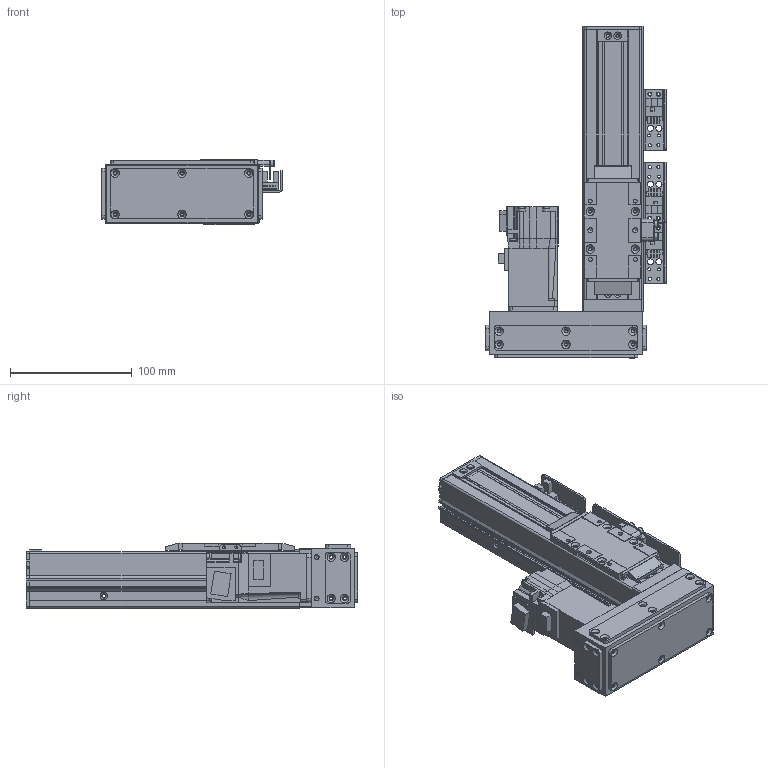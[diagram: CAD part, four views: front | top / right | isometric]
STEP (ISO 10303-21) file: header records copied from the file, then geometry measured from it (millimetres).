
FILE_DESCRIPTION(/* description */ (''),/* implementation_level */ '2;1');
FILE_NAME(/* name */ '\\192.168.0.160\disk1\HAN SHIN Master\B-설계부문\C-표준\B-2024년\BC02-표준도면\+로봇 개선표준도면\홈페이지 표준 도면\표준 승인도 폴더 - 재작업\3D\HC Type\HC50 - 재작업\L-Type\HC50-L10-N-0100-R10.stp',/* time_stamp */ '2024-11-29T11:11:11+09:00',/* author */ ('user'),/* organization */ (''),/* preprocessor_version */ 'ST-DEVELOPER v18.1',/* originating_system */ 'Autodesk Inventor 2022',/* authorisation */ '');
FILE_SCHEMA (('AUTOMOTIVE_DESIGN { 1 0 10303 214 3 1 1 }'));
Length unit declared in the file: millimetre
Products named in the file (27): HC50-L10-N-0200-R10; HC50 BASE-R1; HC50 REAR BLOCK; HR45 FRONT BLOCK; 45- BEARING COVER; SENSOR DOG BRK; HC50 SENSOR DOG; ISO 4762 - M3 x 16; HC45 UPCOVER; HC75,90 SHEET PLATE; HC45, HC65 STOPPER; MAGNET(∅10X3); HC50 REAR COVER-R3; SENSOR BRK(EE-SX674A); EE_SX674A; ESF1210 NUT; HC45 TABLE; HC75 TABLE COVER; HC45 TABLE SIDE COVER; hg-kr13_; HR45 ACRYL COVER(측면); HR45 MOTOR PLATE 100W; HC50 L MOTOR PLATE; HR45 ACRYL COVER(정면); HR45 LR BELT COVER; HR45 ACRYL COVER(상하면); HC50SIDECOVER000
Assembly tree (38 placements, depth 2):
  HC50-L10-N-0200-R10
    HC50 BASE-R1
    HC50 REAR BLOCK
    HR45 FRONT BLOCK
    45- BEARING COVER
    SENSOR BRK(EE-SX674A)  x3
    EE_SX674A  x3
    SENSOR DOG BRK
    HC50 SENSOR DOG
    ISO 4762 - M3 x 16  x2
    HC45 UPCOVER
    HC75,90 SHEET PLATE  x2
    HC45, HC65 STOPPER  x2
    MAGNET(∅10X3)  x3
    HC50 REAR COVER-R3
    ESF1210 NUT
    HC50SIDECOVER000  x2
    HC45 TABLE SIDE COVER  x2
    HC45 TABLE
    HC75 TABLE COVER
    hg-kr13_
    HR45 ACRYL COVER(측면)
    HR45 MOTOR PLATE 100W
    HC50 L MOTOR PLATE
    HR45 ACRYL COVER(정면)
    HR45 ACRYL COVER(상하면)  x2
    HR45 LR BELT COVER
Bounding box: 148.5 x 273 x 54 mm (x, y, z)
Volume: 475862.3 mm3; surface area: 290264.8 mm2
Topology: 40 solids, 40 shells, 1563 faces, 4171 edges, 2738 vertices
Faces by surface type: plane 866, cylinder 598, cone 86, bspline 9, torus 4
Full cylindrical faces by diameter (mm): 2.013 x4, 2.459 x95, 3 x2, 3.242 x16, 3.4 x32, 3.5 x42, 4 x12, 4.5 x12, 5 x14, 5.5 x2, 5.6 x2, 5.9 x2, 6 x21, 6.5 x2, 8 x1, 9 x2, 10 x4, 10.5 x1, 12 x1, 15 x3, 17 x1, 18 x1, 21 x2, 22 x4, 24 x1, 24.5 x1, 26 x1, 30 x2
Entity records: 40528 total; most frequent: CARTESIAN_POINT 7770, DIRECTION 6667, ORIENTED_EDGE 6400, EDGE_CURVE 3200, AXIS2_PLACEMENT_3D 2266, LINE 2135, VECTOR 2135, VERTEX_POINT 2124
